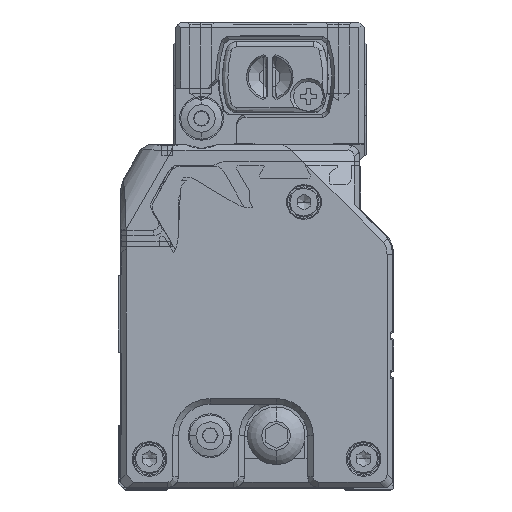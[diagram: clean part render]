
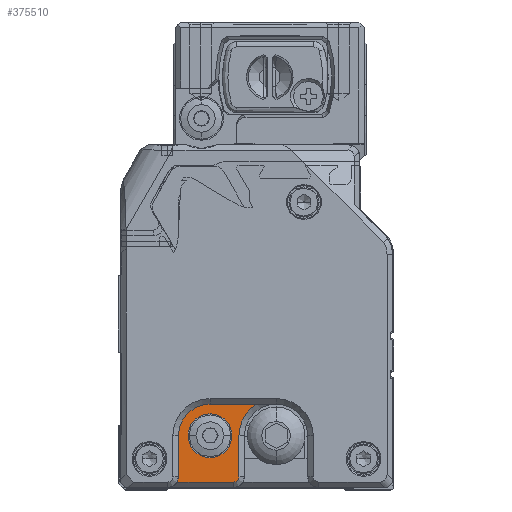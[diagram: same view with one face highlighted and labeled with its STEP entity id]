
A CAD part, left-side view. The second image highlights one B-rep face of the part: STEP entity #375510.
In plain terms, the highlighted planar face has unit normal (-1, 0, 0) as drawn and (1, 0, 0) by its records, which use the part's own axes.
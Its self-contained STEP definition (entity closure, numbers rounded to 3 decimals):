
#373770=CARTESIAN_POINT('',(864.177,8.212,
10.598));
#373780=VERTEX_POINT('',#373770);
#373810=CARTESIAN_POINT('',(864.177,10.212,
10.598));
#373820=DIRECTION('',(-1.,0.,0.));
#373830=DIRECTION('',(0.,1.,0.));
#373840=AXIS2_PLACEMENT_3D('',#373810,#373820,#373830);
#373850=CIRCLE('',#373840,2.);
#373860=CARTESIAN_POINT('',(864.177,8.48,
11.598));
#373870=VERTEX_POINT('',#373860);
#373880=EDGE_CURVE('',#373780,#373870,#373850,.T.);
#374170=CARTESIAN_POINT('',(864.177,8.212,
3.148));
#374180=VERTEX_POINT('',#374170);
#374230=CARTESIAN_POINT('',(864.177,8.212,
3.148));
#374240=DIRECTION('',(0.,0.,1.));
#374250=VECTOR('',#374240,1.);
#374260=LINE('',#374230,#374250);
#374270=EDGE_CURVE('',#374180,#373780,#374260,.T.);
#374510=CARTESIAN_POINT('',(864.177,2.462,
3.148));
#374520=DIRECTION('',(-1.,0.,0.));
#374530=DIRECTION('',(0.,1.,0.));
#374540=AXIS2_PLACEMENT_3D('',#374510,#374520,#374530);
#374550=CIRCLE('',#374540,5.75);
#374560=CARTESIAN_POINT('',(864.177,2.462,
-2.602));
#374570=VERTEX_POINT('',#374560);
#374580=EDGE_CURVE('',#374180,#374570,#374550,.T.);
#374860=CARTESIAN_POINT('',(864.177,-5.938,
-12.8));
#374870=DIRECTION('',(-1.,0.,0.));
#374880=DIRECTION('',(0.,0.,-1.));
#374890=AXIS2_PLACEMENT_3D('',#374860,#374870,#374880);
#374900=PLANE('',#374890);
#374910=CARTESIAN_POINT('',(864.177,4.212,
11.598));
#374920=DIRECTION('',(0.,-1.,0.));
#374930=VECTOR('',#374920,1.);
#374940=LINE('',#374910,#374930);
#374950=CARTESIAN_POINT('',(864.177,-1.788,
11.598));
#374960=VERTEX_POINT('',#374950);
#374970=EDGE_CURVE('',#373870,#374960,#374940,.T.);
#374980=ORIENTED_EDGE('',*,*,#374970,.T.);
#374990=ORIENTED_EDGE('',*,*,#373880,.T.);
#375000=ORIENTED_EDGE('',*,*,#374270,.T.);
#375010=ORIENTED_EDGE('',*,*,#374580,.F.);
#375020=CARTESIAN_POINT('',(864.177,-5.888,
-2.602));
#375030=DIRECTION('',(0.,1.,0.));
#375040=VECTOR('',#375030,1.);
#375050=LINE('',#375020,#375040);
#375060=CARTESIAN_POINT('',(864.177,-6.002,
-2.602));
#375070=VERTEX_POINT('',#375060);
#375080=EDGE_CURVE('',#375070,#374570,#375050,.T.);
#375090=ORIENTED_EDGE('',*,*,#375080,.T.);
#375100=CARTESIAN_POINT('',(864.177,-9.538,
3.148));
#375110=DIRECTION('',(-1.,0.,0.));
#375120=DIRECTION('',(0.,1.,0.));
#375130=AXIS2_PLACEMENT_3D('',#375100,#375110,#375120);
#375140=CIRCLE('',#375130,6.75);
#375150=CARTESIAN_POINT('',(864.177,-2.788,
3.148));
#375160=VERTEX_POINT('',#375150);
#375170=EDGE_CURVE('',#375160,#375070,#375140,.T.);
#375180=ORIENTED_EDGE('',*,*,#375170,.T.);
#375190=CARTESIAN_POINT('',(864.177,-2.788,
6.873));
#375200=DIRECTION('',(0.,0.,-1.));
#375210=VECTOR('',#375200,1.);
#375220=LINE('',#375190,#375210);
#375230=CARTESIAN_POINT('',(864.177,-2.788,
10.598));
#375240=VERTEX_POINT('',#375230);
#375250=EDGE_CURVE('',#375240,#375160,#375220,.T.);
#375260=ORIENTED_EDGE('',*,*,#375250,.T.);
#375270=CARTESIAN_POINT('',(864.177,-1.788,
10.598));
#375280=DIRECTION('',(-1.,0.,0.));
#375290=DIRECTION('',(0.,1.,0.));
#375300=AXIS2_PLACEMENT_3D('',#375270,#375280,#375290);
#375310=CIRCLE('',#375300,1.);
#375320=EDGE_CURVE('',#375240,#374960,#375310,.T.);
#375330=ORIENTED_EDGE('',*,*,#375320,.F.);
#375340=EDGE_LOOP('',(#375330,#375260,#375180,#375090,#375010,#375000,
#374990,#374980));
#375350=FACE_OUTER_BOUND('',#375340,.T.);
#375360=CARTESIAN_POINT('',(864.177,2.462,
3.148));
#375370=DIRECTION('',(-1.,0.,0.));
#375380=DIRECTION('',(0.,0.,-1.));
#375390=AXIS2_PLACEMENT_3D('',#375360,#375370,#375380);
#375400=CIRCLE('',#375390,4.);
#375410=CARTESIAN_POINT('',(864.177,2.462,
-0.852));
#375420=VERTEX_POINT('',#375410);
#375430=CARTESIAN_POINT('',(864.177,2.462,
7.148));
#375440=VERTEX_POINT('',#375430);
#375450=EDGE_CURVE('',#375420,#375440,#375400,.T.);
#375460=ORIENTED_EDGE('',*,*,#375450,.T.);
#375470=EDGE_CURVE('',#375440,#375420,#375400,.T.);
#375480=ORIENTED_EDGE('',*,*,#375470,.T.);
#375490=EDGE_LOOP('',(#375480,#375460));
#375500=FACE_BOUND('',#375490,.T.);
#375510=ADVANCED_FACE('',(#375350,#375500),#374900,.F.);
